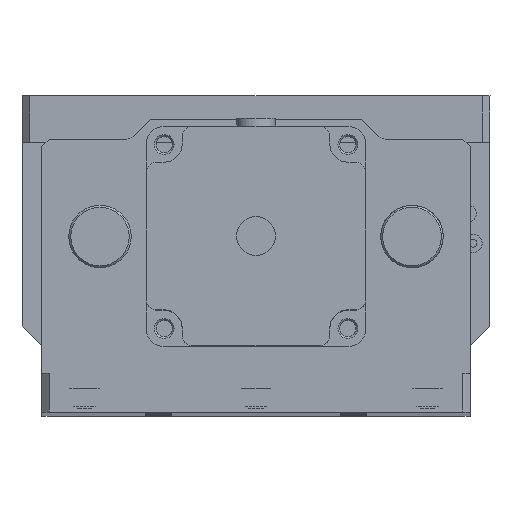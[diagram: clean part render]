
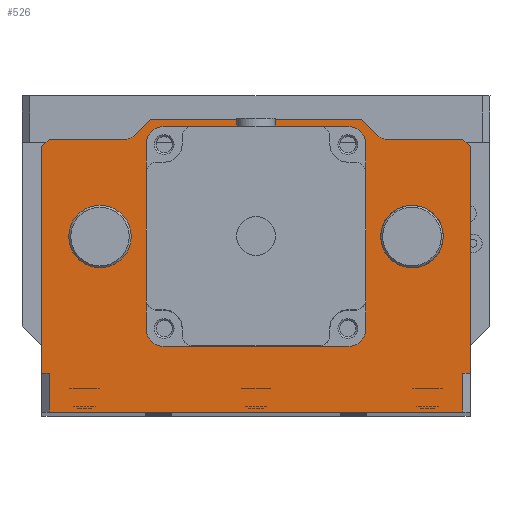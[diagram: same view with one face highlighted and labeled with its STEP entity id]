
A CAD part, top view. The second image highlights one B-rep face of the part: STEP entity #526.
In plain terms, the highlighted planar face has unit normal (0, 0, 1).
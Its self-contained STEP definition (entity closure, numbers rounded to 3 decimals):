
#526=ADVANCED_FACE('',(#14966,#14968,#14970,#14972),#14974,.T.);
#14966=FACE_BOUND('',#14967,.T.);
#14967=EDGE_LOOP('',(#27028,#27029,#27030,#27031,#27032,#27033,#27034,#27035,#27036,
#27037,#27038,#27039,#27040,#27041,#27042,#27043));
#14968=FACE_BOUND('',#14969,.T.);
#14969=EDGE_LOOP('',(#27044,#27045,#27046,#27047,#27048,#27049,#27050,#27051));
#14970=FACE_BOUND('',#14971,.T.);
#14971=EDGE_LOOP('',(#27052));
#14972=FACE_BOUND('',#14973,.T.);
#14973=EDGE_LOOP('',(#27053));
#14974=PLANE('',#14975);
#14975=AXIS2_PLACEMENT_3D('',#14976,#14977,#14978);
#14976=CARTESIAN_POINT('',(-55.,-45.,0.));
#14977=DIRECTION('',(0.,0.,1.));
#14978=DIRECTION('',(1.,0.,0.));
#27028=ORIENTED_EDGE('',*,*,#34268,.F.);
#27029=ORIENTED_EDGE('',*,*,#34233,.T.);
#27030=ORIENTED_EDGE('',*,*,#34270,.T.);
#27031=ORIENTED_EDGE('',*,*,#34271,.T.);
#27032=ORIENTED_EDGE('',*,*,#34144,.T.);
#27033=ORIENTED_EDGE('',*,*,#34272,.F.);
#27034=ORIENTED_EDGE('',*,*,#34273,.T.);
#27035=ORIENTED_EDGE('',*,*,#34274,.F.);
#27036=ORIENTED_EDGE('',*,*,#34275,.T.);
#27037=ORIENTED_EDGE('',*,*,#34276,.T.);
#27038=ORIENTED_EDGE('',*,*,#34277,.T.);
#27039=ORIENTED_EDGE('',*,*,#34278,.F.);
#27040=ORIENTED_EDGE('',*,*,#34279,.T.);
#27041=ORIENTED_EDGE('',*,*,#34280,.F.);
#27042=ORIENTED_EDGE('',*,*,#34101,.T.);
#27043=ORIENTED_EDGE('',*,*,#34269,.T.);
#27044=ORIENTED_EDGE('',*,*,#34281,.F.);
#27045=ORIENTED_EDGE('',*,*,#34282,.F.);
#27046=ORIENTED_EDGE('',*,*,#34283,.F.);
#27047=ORIENTED_EDGE('',*,*,#34284,.F.);
#27048=ORIENTED_EDGE('',*,*,#34285,.F.);
#27049=ORIENTED_EDGE('',*,*,#34286,.F.);
#27050=ORIENTED_EDGE('',*,*,#34287,.F.);
#27051=ORIENTED_EDGE('',*,*,#34288,.F.);
#27052=ORIENTED_EDGE('',*,*,#34289,.T.);
#27053=ORIENTED_EDGE('',*,*,#34290,.T.);
#34101=EDGE_CURVE('',#37530,#37528,#37531,.T.);
#34144=EDGE_CURVE('',#37613,#37611,#37614,.T.);
#34233=EDGE_CURVE('',#37775,#37773,#37776,.T.);
#34268=EDGE_CURVE('',#37775,#37842,#37844,.T.);
#34269=EDGE_CURVE('',#37528,#37842,#37845,.T.);
#34270=EDGE_CURVE('',#37773,#37846,#37847,.T.);
#34271=EDGE_CURVE('',#37846,#37613,#37848,.T.);
#34272=EDGE_CURVE('',#37849,#37611,#37850,.F.);
#34273=EDGE_CURVE('',#37849,#37851,#37852,.F.);
#34274=EDGE_CURVE('',#37853,#37851,#37854,.F.);
#34275=EDGE_CURVE('',#37853,#37855,#37856,.F.);
#34276=EDGE_CURVE('',#37855,#37857,#37858,.T.);
#34277=EDGE_CURVE('',#37857,#37859,#37860,.F.);
#34278=EDGE_CURVE('',#37861,#37859,#37862,.F.);
#34279=EDGE_CURVE('',#37861,#37863,#37864,.F.);
#34280=EDGE_CURVE('',#37530,#37863,#37865,.F.);
#34281=EDGE_CURVE('',#37866,#37867,#37868,.T.);
#34282=EDGE_CURVE('',#37869,#37866,#37870,.T.);
#34283=EDGE_CURVE('',#37871,#37869,#37872,.T.);
#34284=EDGE_CURVE('',#37873,#37871,#37874,.T.);
#34285=EDGE_CURVE('',#37875,#37873,#37876,.T.);
#34286=EDGE_CURVE('',#37877,#37875,#37878,.T.);
#34287=EDGE_CURVE('',#37879,#37877,#37880,.T.);
#34288=EDGE_CURVE('',#37867,#37879,#37881,.T.);
#34289=EDGE_CURVE('',#37882,#37882,#37883,.F.);
#34290=EDGE_CURVE('',#37884,#37884,#37885,.F.);
#37528=VERTEX_POINT('',#43569);
#37530=VERTEX_POINT('',#43573);
#37531=LINE('',#43574,#43575);
#37611=VERTEX_POINT('',#43766);
#37613=VERTEX_POINT('',#43770);
#37614=LINE('',#43771,#43772);
#37773=VERTEX_POINT('',#44331);
#37775=VERTEX_POINT('',#44335);
#37776=LINE('',#44336,#44337);
#37842=VERTEX_POINT('',#44502);
#37844=LINE('',#44506,#44507);
#37845=LINE('',#44509,#44510);
#37846=VERTEX_POINT('',#44512);
#37847=LINE('',#44513,#44514);
#37848=LINE('',#44516,#44517);
#37849=VERTEX_POINT('',#44519);
#37850=LINE('',#44520,#44521);
#37851=VERTEX_POINT('',#44523);
#37852=LINE('',#44524,#44525);
#37853=VERTEX_POINT('',#44527);
#37854=CIRCLE('',#44528,3.);
#37855=VERTEX_POINT('',#44532);
#37856=LINE('',#44533,#44534);
#37857=VERTEX_POINT('',#44536);
#37858=LINE('',#44537,#44538);
#37859=VERTEX_POINT('',#44540);
#37860=LINE('',#44541,#44542);
#37861=VERTEX_POINT('',#44544);
#37862=CIRCLE('',#44545,3.);
#37863=VERTEX_POINT('',#44549);
#37864=LINE('',#44550,#44551);
#37865=LINE('',#44553,#44554);
#37866=VERTEX_POINT('',#44556);
#37867=VERTEX_POINT('',#44557);
#37868=LINE('',#44558,#44559);
#37869=VERTEX_POINT('',#44561);
#37870=CIRCLE('',#44562,4.63);
#37871=VERTEX_POINT('',#44566);
#37872=LINE('',#44567,#44568);
#37873=VERTEX_POINT('',#44570);
#37874=CIRCLE('',#44571,4.63);
#37875=VERTEX_POINT('',#44575);
#37876=LINE('',#44576,#44577);
#37877=VERTEX_POINT('',#44579);
#37878=CIRCLE('',#44580,4.63);
#37879=VERTEX_POINT('',#44584);
#37880=LINE('',#44585,#44586);
#37881=CIRCLE('',#44588,4.63);
#37882=VERTEX_POINT('',#44592);
#37883=CIRCLE('',#44593,8.);
#37884=VERTEX_POINT('',#44597);
#37885=CIRCLE('',#44598,8.);
#43569=CARTESIAN_POINT('',(-55.,-35.,0.));
#43573=CARTESIAN_POINT('',(-55.,23.,0.));
#43574=CARTESIAN_POINT('',(-55.,23.,0.));
#43575=VECTOR('',#43576,1.);
#43576=DIRECTION('',(0.,-1.,0.));
#43766=CARTESIAN_POINT('',(55.,23.,0.));
#43770=CARTESIAN_POINT('',(55.,-35.,0.));
#43771=CARTESIAN_POINT('',(55.,-35.,0.));
#43772=VECTOR('',#43773,1.);
#43773=DIRECTION('',(0.,1.,0.));
#44331=CARTESIAN_POINT('',(53.,-45.,0.));
#44335=CARTESIAN_POINT('',(-53.,-45.,0.));
#44336=CARTESIAN_POINT('',(-53.,-45.,0.));
#44337=VECTOR('',#44338,1.);
#44338=DIRECTION('',(1.,0.,0.));
#44502=CARTESIAN_POINT('',(-53.,-35.,0.));
#44506=CARTESIAN_POINT('',(-53.,-45.,0.));
#44507=VECTOR('',#44508,1.);
#44508=DIRECTION('',(0.,1.,0.));
#44509=CARTESIAN_POINT('',(-55.,-35.,0.));
#44510=VECTOR('',#44511,1.);
#44511=DIRECTION('',(1.,0.,0.));
#44512=CARTESIAN_POINT('',(53.,-35.,0.));
#44513=CARTESIAN_POINT('',(53.,-45.,0.));
#44514=VECTOR('',#44515,1.);
#44515=DIRECTION('',(0.,1.,0.));
#44516=CARTESIAN_POINT('',(53.,-35.,0.));
#44517=VECTOR('',#44518,1.);
#44518=DIRECTION('',(1.,0.,0.));
#44519=CARTESIAN_POINT('',(53.,25.,0.));
#44520=CARTESIAN_POINT('',(55.,23.,0.));
#44521=VECTOR('',#44522,1.);
#44522=DIRECTION('',(-0.707,0.707,0.));
#44523=CARTESIAN_POINT('',(33.243,25.,0.));
#44524=CARTESIAN_POINT('',(33.243,25.,0.));
#44525=VECTOR('',#44526,1.);
#44526=DIRECTION('',(1.,0.,0.));
#44527=CARTESIAN_POINT('',(31.121,25.879,0.));
#44528=AXIS2_PLACEMENT_3D('',#44529,#44530,#44531);
#44529=CARTESIAN_POINT('',(33.243,28.,0.));
#44530=DIRECTION('',(0.,0.,-1.));
#44531=DIRECTION('',(0.,-1.,0.));
#44532=CARTESIAN_POINT('',(27.,30.,0.));
#44533=CARTESIAN_POINT('',(27.,30.,0.));
#44534=VECTOR('',#44535,1.);
#44535=DIRECTION('',(0.707,-0.707,0.));
#44536=CARTESIAN_POINT('',(-27.,30.,0.));
#44537=CARTESIAN_POINT('',(27.,30.,0.));
#44538=VECTOR('',#44539,1.);
#44539=DIRECTION('',(-1.,0.,0.));
#44540=CARTESIAN_POINT('',(-31.121,25.879,0.));
#44541=CARTESIAN_POINT('',(-31.121,25.879,0.));
#44542=VECTOR('',#44543,1.);
#44543=DIRECTION('',(0.707,0.707,0.));
#44544=CARTESIAN_POINT('',(-33.243,25.,0.));
#44545=AXIS2_PLACEMENT_3D('',#44546,#44547,#44548);
#44546=CARTESIAN_POINT('',(-33.243,28.,0.));
#44547=DIRECTION('',(0.,0.,-1.));
#44548=DIRECTION('',(0.707,-0.707,0.));
#44549=CARTESIAN_POINT('',(-53.,25.,0.));
#44550=CARTESIAN_POINT('',(-53.,25.,0.));
#44551=VECTOR('',#44552,1.);
#44552=DIRECTION('',(1.,0.,0.));
#44553=CARTESIAN_POINT('',(-53.,25.,0.));
#44554=VECTOR('',#44555,1.);
#44555=DIRECTION('',(-0.707,-0.707,0.));
#44556=CARTESIAN_POINT('',(23.57,28.2,0.));
#44557=CARTESIAN_POINT('',(-23.57,28.2,0.));
#44558=CARTESIAN_POINT('',(23.57,28.2,0.));
#44559=VECTOR('',#44560,1.);
#44560=DIRECTION('',(-1.,0.,0.));
#44561=CARTESIAN_POINT('',(28.2,23.57,0.));
#44562=AXIS2_PLACEMENT_3D('',#44563,#44564,#44565);
#44563=CARTESIAN_POINT('',(23.57,23.57,0.));
#44564=DIRECTION('',(-0.,0.,1.));
#44565=DIRECTION('',(1.,0.,0.));
#44566=CARTESIAN_POINT('',(28.2,-23.57,0.));
#44567=CARTESIAN_POINT('',(28.2,-23.57,0.));
#44568=VECTOR('',#44569,1.);
#44569=DIRECTION('',(0.,1.,0.));
#44570=CARTESIAN_POINT('',(23.57,-28.2,0.));
#44571=AXIS2_PLACEMENT_3D('',#44572,#44573,#44574);
#44572=CARTESIAN_POINT('',(23.57,-23.57,0.));
#44573=DIRECTION('',(0.,0.,1.));
#44574=DIRECTION('',(0.,-1.,0.));
#44575=CARTESIAN_POINT('',(-23.57,-28.2,0.));
#44576=CARTESIAN_POINT('',(-23.57,-28.2,0.));
#44577=VECTOR('',#44578,1.);
#44578=DIRECTION('',(1.,0.,0.));
#44579=CARTESIAN_POINT('',(-28.2,-23.57,0.));
#44580=AXIS2_PLACEMENT_3D('',#44581,#44582,#44583);
#44581=CARTESIAN_POINT('',(-23.57,-23.57,0.));
#44582=DIRECTION('',(0.,0.,1.));
#44583=DIRECTION('',(-1.,0.,0.));
#44584=CARTESIAN_POINT('',(-28.2,23.57,0.));
#44585=CARTESIAN_POINT('',(-28.2,23.57,0.));
#44586=VECTOR('',#44587,1.);
#44587=DIRECTION('',(0.,-1.,0.));
#44588=AXIS2_PLACEMENT_3D('',#44589,#44590,#44591);
#44589=CARTESIAN_POINT('',(-23.57,23.57,0.));
#44590=DIRECTION('',(0.,0.,1.));
#44591=DIRECTION('',(0.,1.,0.));
#44592=CARTESIAN_POINT('',(-32.,0.,0.));
#44593=AXIS2_PLACEMENT_3D('',#44594,#44595,#44596);
#44594=CARTESIAN_POINT('',(-40.,0.,0.));
#44595=DIRECTION('',(0.,0.,1.));
#44596=DIRECTION('',(1.,0.,0.));
#44597=CARTESIAN_POINT('',(48.,0.,0.));
#44598=AXIS2_PLACEMENT_3D('',#44599,#44600,#44601);
#44599=CARTESIAN_POINT('',(40.,0.,0.));
#44600=DIRECTION('',(0.,0.,1.));
#44601=DIRECTION('',(1.,0.,0.));
